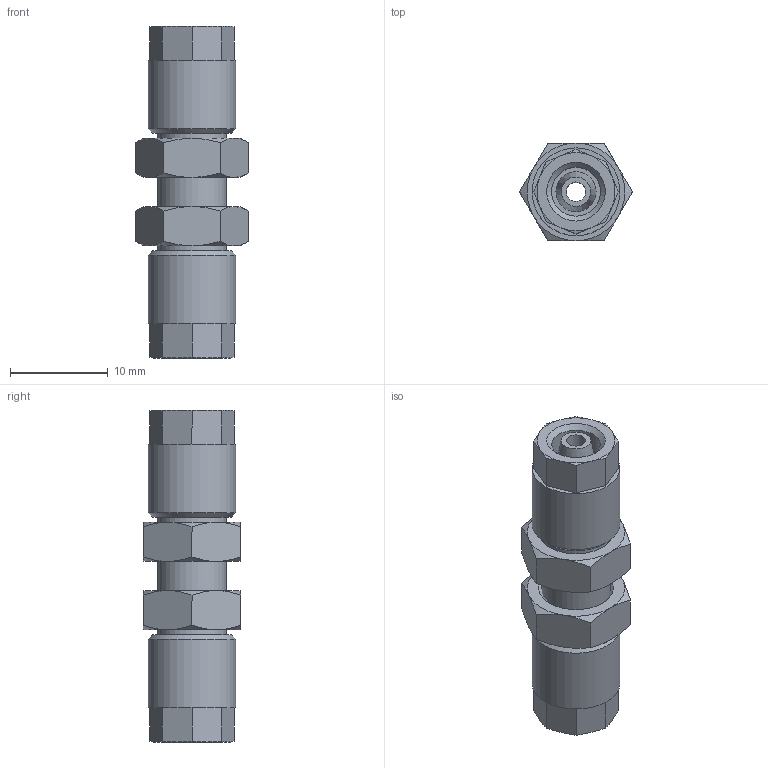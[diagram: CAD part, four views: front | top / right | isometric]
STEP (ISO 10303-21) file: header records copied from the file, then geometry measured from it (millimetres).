
FILE_DESCRIPTION(/* description */ (''),/* implementation_level */ '2;1');
FILE_NAME(/* name */ '10502_304_53_17.07.17',/* time_stamp */ '2017-07-17T11:45:25+02:00',/* author */ (''),/* organization */ (''),/* preprocessor_version */ 'ST-DEVELOPER v16.5',/* originating_system */ 'HiCAD 2016 2102.2 Build 618',/* authorisation */ '');
FILE_SCHEMA (('AUTOMOTIVE_DESIGN { 1 0 10303 214 1 1 1 1 }'));
Length unit declared in the file: millimetre
Products named in the file (6): Root; R10502; 17003; Kontermutter
Assembly tree (5 placements, depth 2):
  Root
    R10502
    17003
    17003
    Kontermutter
    Kontermutter
Bounding box: 11.55 x 10 x 34 mm (x, y, z)
Volume: 2027.1 mm3; surface area: 2617.6 mm2
Topology: 5 solids, 5 shells, 114 faces, 250 edges, 152 vertices
Faces by surface type: cone 56, plane 44, cylinder 12, torus 2
Full cylindrical faces by diameter (mm): 2 x1, 3.7 x2, 5 x2, 6.08 x4, 7 x1, 9 x2
Entity records: 5096 total; most frequent: DIRECTION 616, CARTESIAN_POINT 468, PRESENTATION_STYLE_ASSIGNMENT 417, COLOUR_RGB 413, DRAUGHTING_PRE_DEFINED_CURVE_FONT 412, CURVE_STYLE 412, OVER_RIDING_STYLED_ITEM 412, ORIENTED_EDGE 412
